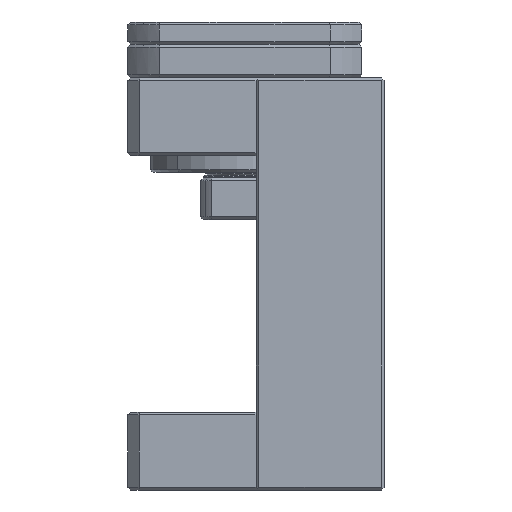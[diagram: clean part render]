
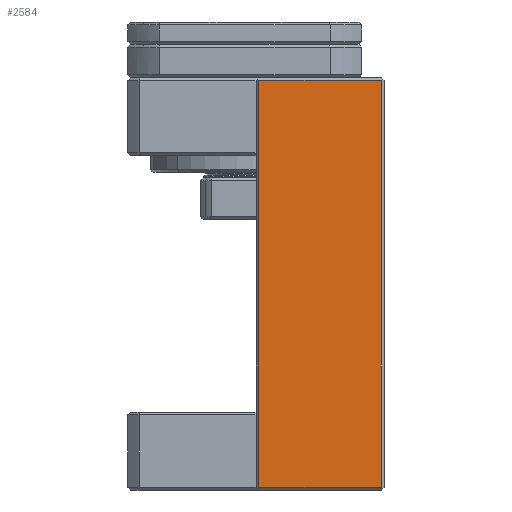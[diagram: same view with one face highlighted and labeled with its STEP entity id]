
A CAD part, left-side view. The second image highlights one B-rep face of the part: STEP entity #2584.
In plain terms, the highlighted planar face has unit normal (-1, 0, 0).
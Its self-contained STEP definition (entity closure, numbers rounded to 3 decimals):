
#2584 = ADVANCED_FACE ( 'NONE', ( #10677 ), #10674, .T. ) ;
#2585 = EDGE_LOOP ( 'NONE', ( #2586, #2590, #2593, #2596 ) ) ;
#2586 = ORIENTED_EDGE ( 'NONE', *, *, #2587, .T. ) ;
#2587 = EDGE_CURVE ( 'NONE', #2588, #2589, #10734, .T. ) ;
#2588 = VERTEX_POINT ( 'NONE', #10730 ) ;
#2589 = VERTEX_POINT ( 'NONE', #10729 ) ;
#2590 = ORIENTED_EDGE ( 'NONE', *, *, #2591, .T. ) ;
#2591 = EDGE_CURVE ( 'NONE', #2589, #2592, #10728, .T. ) ;
#2592 = VERTEX_POINT ( 'NONE', #10724 ) ;
#2593 = ORIENTED_EDGE ( 'NONE', *, *, #2594, .T. ) ;
#2594 = EDGE_CURVE ( 'NONE', #2592, #2595, #10723, .T. ) ;
#2595 = VERTEX_POINT ( 'NONE', #10719 ) ;
#2596 = ORIENTED_EDGE ( 'NONE', *, *, #2597, .T. ) ;
#2597 = EDGE_CURVE ( 'NONE', #2595, #2588, #10718, .T. ) ;
#9385 = DIRECTION ( 'NONE',  ( 0., -1., 0. ) ) ;
#10423 = DIRECTION ( 'NONE',  ( -1., 0., 0. ) ) ;
#10424 = CARTESIAN_POINT ( 'NONE',  ( 0., 23., -74. ) ) ;
#10674 = PLANE ( 'NONE',  #10675 ) ;
#10675 = AXIS2_PLACEMENT_3D ( 'NONE', #10424, #10423, #9385 ) ;
#10677 = FACE_OUTER_BOUND ( 'NONE', #2585, .T. ) ;
#10715 = DIRECTION ( 'NONE',  ( 0., 0., 1. ) ) ;
#10716 = VECTOR ( 'NONE', #10715, 1000. ) ;
#10717 = CARTESIAN_POINT ( 'NONE',  ( 0., 0.5, -74. ) ) ;
#10718 = LINE ( 'NONE', #10717, #10716 ) ;
#10719 = CARTESIAN_POINT ( 'NONE',  ( 0., 0.5, -73.5 ) ) ;
#10720 = DIRECTION ( 'NONE',  ( 0., -1., 0. ) ) ;
#10721 = VECTOR ( 'NONE', #10720, 1000. ) ;
#10722 = CARTESIAN_POINT ( 'NONE',  ( 0., 0., -73.5 ) ) ;
#10723 = LINE ( 'NONE', #10722, #10721 ) ;
#10724 = CARTESIAN_POINT ( 'NONE',  ( 0., 22.5, -73.5 ) ) ;
#10725 = DIRECTION ( 'NONE',  ( 0., 0., -1. ) ) ;
#10726 = VECTOR ( 'NONE', #10725, 1000. ) ;
#10727 = CARTESIAN_POINT ( 'NONE',  ( 0., 22.5, -74. ) ) ;
#10728 = LINE ( 'NONE', #10727, #10726 ) ;
#10729 = CARTESIAN_POINT ( 'NONE',  ( 0., 22.5, -0.5 ) ) ;
#10730 = CARTESIAN_POINT ( 'NONE',  ( 0., 0.5, -0.5 ) ) ;
#10731 = DIRECTION ( 'NONE',  ( 0., 1., 0. ) ) ;
#10732 = VECTOR ( 'NONE', #10731, 1000. ) ;
#10733 = CARTESIAN_POINT ( 'NONE',  ( 0., 23., -0.5 ) ) ;
#10734 = LINE ( 'NONE', #10733, #10732 ) ;
